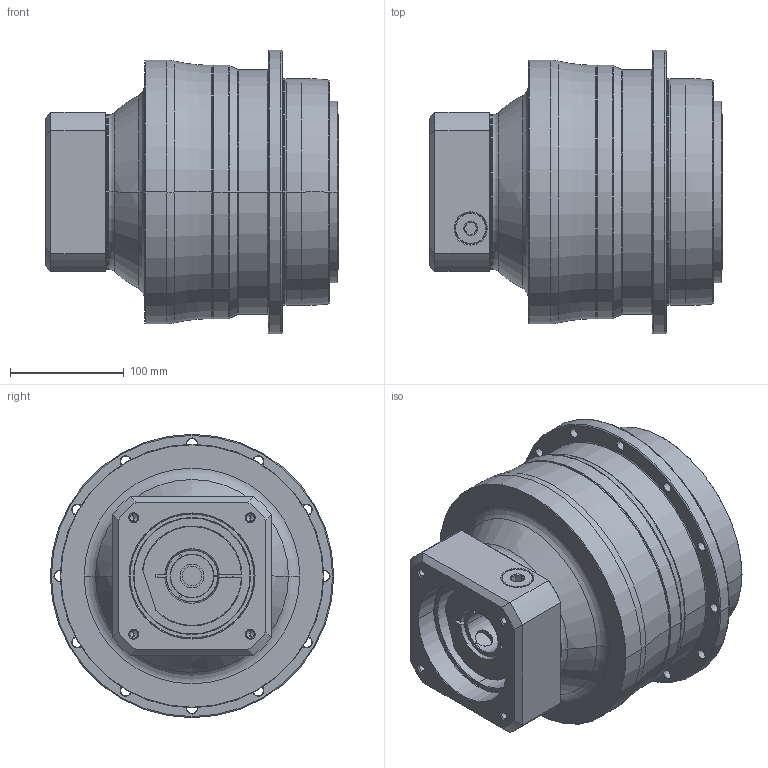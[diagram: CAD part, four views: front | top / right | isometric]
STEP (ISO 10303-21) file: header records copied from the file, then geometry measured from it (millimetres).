
FILE_DESCRIPTION((''),'2;1');
FILE_NAME('AH200_2ST_38-P0409900101_ASM','2016-08-12T',('d01943'),(''),'PRO/ENGINEER BY PARAMETRIC TECHNOLOGY CORPORATION, 2008410','PRO/ENGINEER BY PARAMETRIC TECHNOLOGY CORPORATION, 2008410','');
FILE_SCHEMA(('CONFIG_CONTROL_DESIGN'));
Length unit declared in the file: millimetre
Products named in the file (8): P0278600003; P0359600002; P1317600401; P0409900101; P0503900012; P0912504001; 21711422019; AH200_2ST_38-P0409900101_ASM
Assembly tree (7 placements, depth 2):
  AH200_2ST_38-P0409900101_ASM
    P0278600003
    P0359600002
    P1317600401
    P0409900101
    P0503900012
    P0912504001
    21711422019
Bounding box: 258.5 x 249.5 x 249.5 mm (x, y, z)
Volume: 7442270.5 mm3; surface area: 557781 mm2
Topology: 8 solids, 8 shells, 550 faces, 1285 edges, 757 vertices
Faces by surface type: cylinder 206, cone 168, plane 96, torus 64, bspline 16
Entity records: 20225 total; most frequent: CARTESIAN_POINT 7428, DIRECTION 2881, ORIENTED_EDGE 2478, EDGE_CURVE 1239, AXIS2_PLACEMENT_3D 1218, VERTEX_POINT 757, CIRCLE 669, EDGE_LOOP 640
